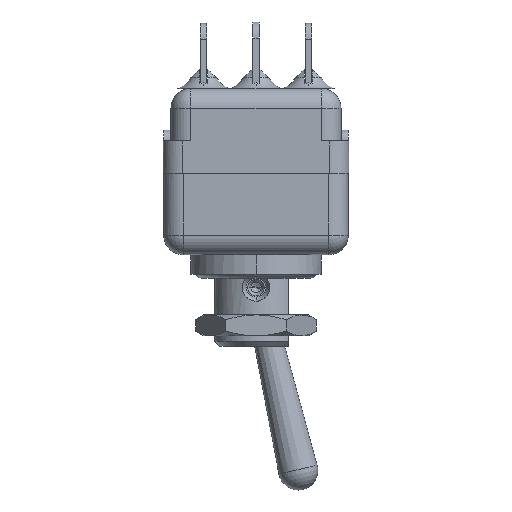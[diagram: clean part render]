
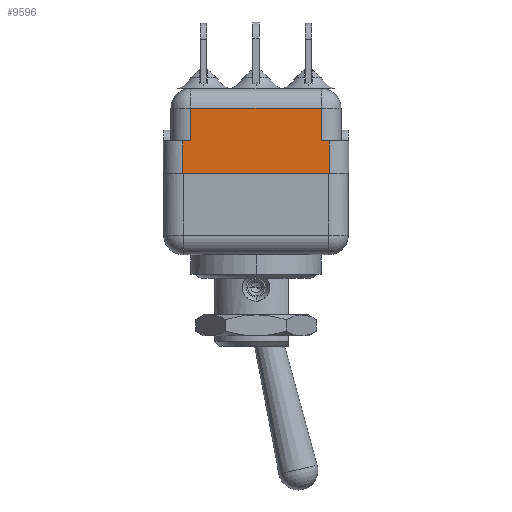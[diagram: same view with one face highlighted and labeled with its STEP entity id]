
A CAD part, top view. The second image highlights one B-rep face of the part: STEP entity #9596.
In plain terms, the highlighted planar face has unit normal (0, 0, 1).
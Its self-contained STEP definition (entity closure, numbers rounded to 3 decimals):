
#1129=DIRECTION('',(1.,0.,0.));
#1130=VECTOR('',#1129,11.2);
#1131=CARTESIAN_POINT('',(-5.6,0.,4.));
#1132=LINE('',#1131,#1130);
#1133=DIRECTION('',(0.,-1.,0.));
#1134=VECTOR('',#1133,2.5);
#1135=CARTESIAN_POINT('',(-5.6,2.5,4.));
#1136=LINE('',#1135,#1134);
#1137=DIRECTION('',(1.,0.,0.));
#1138=VECTOR('',#1137,0.6);
#1139=CARTESIAN_POINT('',(-5.6,2.5,4.));
#1140=LINE('',#1139,#1138);
#1141=DIRECTION('',(0.,-1.,0.));
#1142=VECTOR('',#1141,2.5);
#1143=CARTESIAN_POINT('',(-5.,5.,4.));
#1144=LINE('',#1143,#1142);
#1145=DIRECTION('',(1.,0.,0.));
#1146=VECTOR('',#1145,10.);
#1147=CARTESIAN_POINT('',(-5.,5.,4.));
#1148=LINE('',#1147,#1146);
#1149=DIRECTION('',(0.,-1.,0.));
#1150=VECTOR('',#1149,2.5);
#1151=CARTESIAN_POINT('',(5.,5.,4.));
#1152=LINE('',#1151,#1150);
#1153=DIRECTION('',(1.,0.,0.));
#1154=VECTOR('',#1153,0.6);
#1155=CARTESIAN_POINT('',(5.,2.5,4.));
#1156=LINE('',#1155,#1154);
#1157=DIRECTION('',(0.,-1.,0.));
#1158=VECTOR('',#1157,2.5);
#1159=CARTESIAN_POINT('',(5.6,2.5,4.));
#1160=LINE('',#1159,#1158);
#6636=CARTESIAN_POINT('',(-5.,5.,4.));
#6637=CARTESIAN_POINT('',(-5.,2.5,4.));
#6638=VERTEX_POINT('',#6636);
#6639=VERTEX_POINT('',#6637);
#6640=CARTESIAN_POINT('',(5.,5.,4.));
#6641=VERTEX_POINT('',#6640);
#6646=CARTESIAN_POINT('',(5.,2.5,4.));
#6647=VERTEX_POINT('',#6646);
#6668=CARTESIAN_POINT('',(5.6,2.5,4.));
#6669=VERTEX_POINT('',#6668);
#6670=CARTESIAN_POINT('',(-5.6,2.5,4.));
#6671=VERTEX_POINT('',#6670);
#7810=CARTESIAN_POINT('',(-5.6,0.,4.));
#7811=CARTESIAN_POINT('',(5.6,0.,4.));
#7812=VERTEX_POINT('',#7810);
#7813=VERTEX_POINT('',#7811);
#9574=CARTESIAN_POINT('',(-6.5,-4.,4.));
#9575=DIRECTION('',(0.,0.,1.));
#9576=DIRECTION('',(1.,0.,0.));
#9577=AXIS2_PLACEMENT_3D('',#9574,#9575,#9576);
#9578=PLANE('',#9577);
#9580=ORIENTED_EDGE('',*,*,#9579,.F.);
#9582=ORIENTED_EDGE('',*,*,#9581,.F.);
#9584=ORIENTED_EDGE('',*,*,#9583,.T.);
#9586=ORIENTED_EDGE('',*,*,#9585,.F.);
#9587=ORIENTED_EDGE('',*,*,#9565,.T.);
#9589=ORIENTED_EDGE('',*,*,#9588,.T.);
#9591=ORIENTED_EDGE('',*,*,#9590,.T.);
#9593=ORIENTED_EDGE('',*,*,#9592,.T.);
#9594=EDGE_LOOP('',(#9580,#9582,#9584,#9586,#9587,#9589,#9591,#9593));
#9595=FACE_OUTER_BOUND('',#9594,.F.);
#9565=EDGE_CURVE('',#6638,#6641,#1148,.T.);
#9579=EDGE_CURVE('',#7812,#7813,#1132,.T.);
#9581=EDGE_CURVE('',#6671,#7812,#1136,.T.);
#9583=EDGE_CURVE('',#6671,#6639,#1140,.T.);
#9585=EDGE_CURVE('',#6638,#6639,#1144,.T.);
#9588=EDGE_CURVE('',#6641,#6647,#1152,.T.);
#9590=EDGE_CURVE('',#6647,#6669,#1156,.T.);
#9592=EDGE_CURVE('',#6669,#7813,#1160,.T.);
#9596=ADVANCED_FACE('',(#9595),#9578,.T.);
